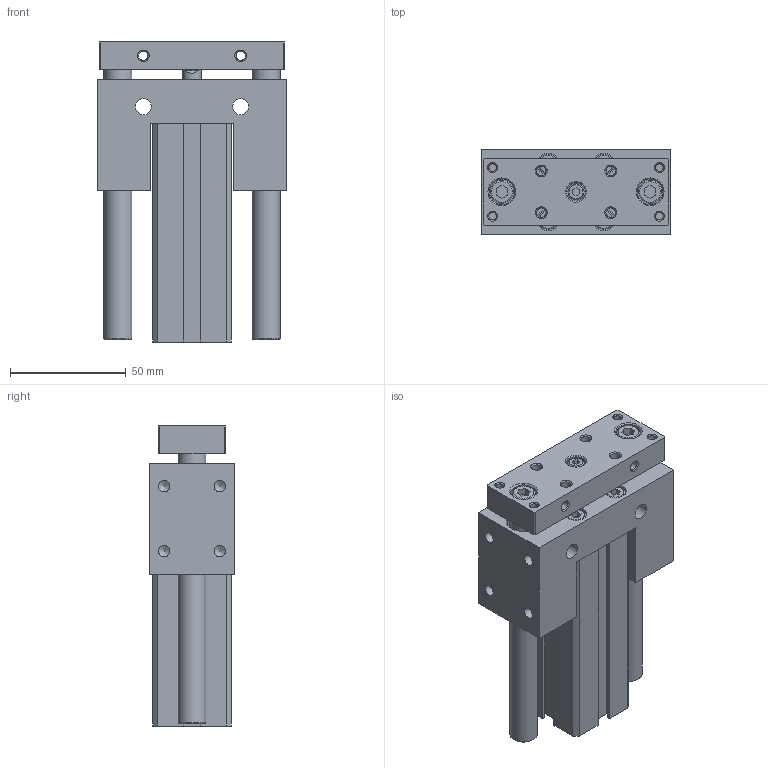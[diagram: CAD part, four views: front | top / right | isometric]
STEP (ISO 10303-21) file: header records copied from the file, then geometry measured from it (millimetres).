
FILE_DESCRIPTION((''),'2;1');
FILE_NAME('I:\3D電子目錄\氣缸\JCB\JCB\JCB20-S\JCB20x65-S.stp','2007-08-21T18:28:45',('Administrator'),(''),'Autodesk Inventor 11','Autodesk Inventor 11','');
FILE_SCHEMA(('AUTOMOTIVE_DESIGN { 1 0 10303 214 1 1 1 1 }'));
Length unit declared in the file: millimetre
Products named in the file (1): JCB20
Bounding box: 82 x 37 x 129.5 mm (x, y, z)
Volume: 226992.7 mm3; surface area: 71306.6 mm2
Topology: 5 solids, 5 shells, 293 faces, 643 edges, 415 vertices
Faces by surface type: plane 150, bspline 53, cylinder 45, cone 37, torus 8
Full cylindrical faces by diameter (mm): 1.5 x2, 4.3 x4, 4.917 x4, 7 x9, 8 x1, 8.5 x4, 9 x1, 10 x2, 12 x2, 13 x2, 14 x2, 22 x4, 23.2 x2
Entity records: 7875 total; most frequent: CARTESIAN_POINT 1985, DIRECTION 1184, ORIENTED_EDGE 992, EDGE_LOOP 504, EDGE_CURVE 496, AXIS2_PLACEMENT_3D 447, VERTEX_POINT 394, FACE_OUTER_BOUND 293
